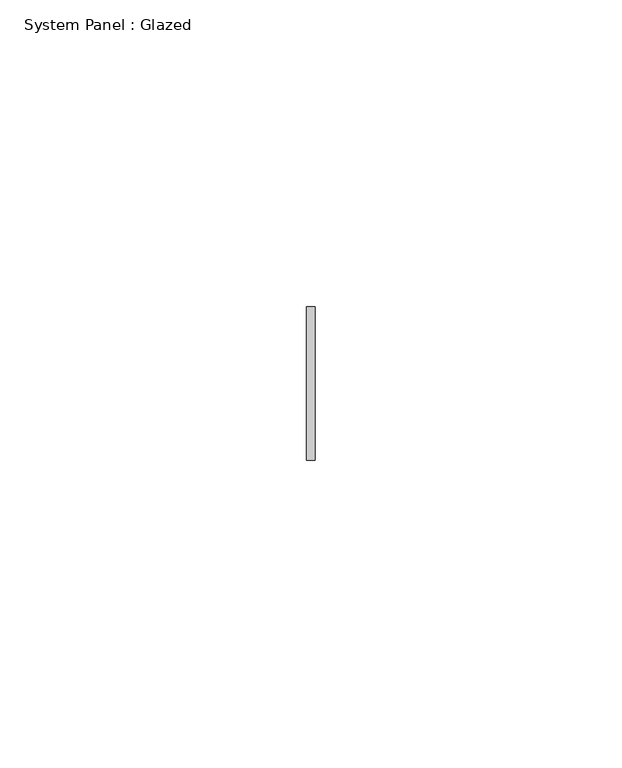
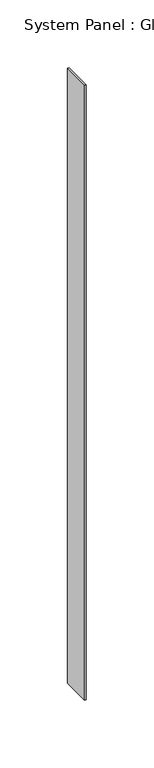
"""IFC4 building model written with IfcOpenShell, lengths in millimetres: plate geometry, System Panel : Glazed."""

import ifcopenshell
import ifcopenshell.guid

model = None  # the IFC model being written
_history = None  # IfcOwnerHistory: only IFC2X3 demands one
_inside = {}  # id of a spatial element -> (the spatial element, [elements in it])
_under = {}  # id of a project, library or spatial element -> (it, [spatial elements below it])
_declared = {}  # id of a project -> (the project, [libraries it declares])
_typed = {}  # id of a type object -> (the type object, [elements of that type])
_made_of = {}  # id of a material, layer set ... -> (it, [elements and type objects made of it])


def new_model(schema):
    """Start an empty IFC model of exactly this schema.

    Asked for "IFC4X3", IfcOpenShell would pick the latest addendum, in which some entities
    have other attributes; the version numbers below select the first issue.
    IFC2X3 requires an IfcOwnerHistory on every rooted entity: one is made here for all.
    """
    global model, _history
    if schema == "IFC4X3":
        model = ifcopenshell.file(schema_version=(4, 3, 0, 0))
    else:
        model = ifcopenshell.file(schema=schema)
    _inside.clear()
    _under.clear()
    _declared.clear()
    _typed.clear()
    _made_of.clear()
    _history = None
    if model.schema == "IFC2X3":
        org = make("IfcOrganization", Name="unknown")
        user = make(
            "IfcPersonAndOrganization",
            ThePerson=make("IfcPerson", FamilyName="unknown"),
            TheOrganization=org,
        )
        app = make(
            "IfcApplication",
            ApplicationDeveloper=org,
            Version="unknown",
            ApplicationFullName="unknown",
            ApplicationIdentifier="unknown",
        )
        _history = make(
            "IfcOwnerHistory",
            OwningUser=user,
            OwningApplication=app,
            ChangeAction="ADDED",
            CreationDate=0,
        )
    return model


def make(cls, **values):
    """One entity of the class cls with the attributes given. An attribute that is None is left unset."""
    return model.create_entity(
        cls, **{name: value for name, value in values.items() if value is not None}
    )


def rooted(cls, **values):
    """An entity with a GlobalId (a new one), such as an element, a storey or a relation."""
    return make(cls, GlobalId=ifcopenshell.guid.new(), OwnerHistory=_history, **values)


def si_unit(unit_type, name, prefix=None):
    """IfcSIUnit, for example si_unit("LENGTHUNIT", "METRE", prefix="MILLI")."""
    return make("IfcSIUnit", UnitType=unit_type, Prefix=prefix, Name=name)


def assignment(units):
    """IfcUnitAssignment: the units of a project."""
    return None if units is None else make("IfcUnitAssignment", Units=units)


def point(xyz):
    """IfcCartesianPoint."""
    return None if xyz is None else make("IfcCartesianPoint", Coordinates=xyz)


def direction(xyz):
    """IfcDirection."""
    return None if xyz is None else make("IfcDirection", DirectionRatios=xyz)


def frame(location, z_axis=None, x_axis=None):
    """IfcAxis2Placement3D, a coordinate frame: its origin and axes. An axis left out is left unset."""
    return make(
        "IfcAxis2Placement3D",
        Location=point(location),
        Axis=direction(z_axis),
        RefDirection=direction(x_axis),
    )


def origin():
    """The frame at (0, 0, 0) with its axes left unset."""
    return frame((0.0, 0.0, 0.0))


def origin_with_axes():
    """The frame at (0, 0, 0) with the z axis (0, 0, 1) and the x axis (1, 0, 0) written out."""
    return frame((0.0, 0.0, 0.0), z_axis=(0.0, 0.0, 1.0), x_axis=(1.0, 0.0, 0.0))


def place(relative_to, where):
    """IfcLocalPlacement: puts the frame where relative to a parent placement (None: the world)."""
    return make(
        "IfcLocalPlacement", PlacementRelTo=relative_to, RelativePlacement=where
    )


def context(
    kind, dimensions, precision=None, world=None, true_north=None, identifier=None
):
    """IfcGeometricRepresentationContext, for example the 3D "Model" context."""
    return make(
        "IfcGeometricRepresentationContext",
        ContextIdentifier=identifier,
        ContextType=kind,
        CoordinateSpaceDimension=dimensions,
        Precision=precision,
        WorldCoordinateSystem=world,
        TrueNorth=true_north,
    )


def project(units=None, contexts=None):
    """IfcProject with its units and contexts."""
    return rooted(
        "IfcProject",
        Name="project",
        RepresentationContexts=contexts,
        UnitsInContext=assignment(units),
    )


def spatial(cls, under=None, at=None, **own):
    """A site, building, storey or space (cls), placed at a placement, below another one or the project."""
    s = rooted(cls, ObjectPlacement=at, **own)
    if under is not None:
        _under.setdefault(under.id(), (under, []))[1].append(s)
    return s


def polyline(points):
    """IfcPolyline through the points."""
    return make("IfcPolyline", Points=[point(p) for p in points])


def outline(outer, holes=None, kind="AREA"):
    """IfcArbitraryClosedProfileDef: a profile drawn as a closed curve; with holes, ...WithVoids."""
    if holes is None:
        return make("IfcArbitraryClosedProfileDef", ProfileType=kind, OuterCurve=outer)
    return make(
        "IfcArbitraryProfileDefWithVoids",
        ProfileType=kind,
        OuterCurve=outer,
        InnerCurves=holes,
    )


def extrude(swept, where, along, depth):
    """IfcExtrudedAreaSolid: the profile swept, set in the frame where, extruded along a direction by depth."""
    return make(
        "IfcExtrudedAreaSolid",
        SweptArea=swept,
        Position=where,
        ExtrudedDirection=direction(along),
        Depth=depth,
    )


def shape(context_of_items, identifier, shape_type, items):
    """IfcShapeRepresentation: the items that make up one representation, for example the "Body"."""
    return make(
        "IfcShapeRepresentation",
        ContextOfItems=context_of_items,
        RepresentationIdentifier=identifier,
        RepresentationType=shape_type,
        Items=items,
    )


def source(mapping_origin, context_of_items, identifier, shape_type, items):
    """IfcRepresentationMap: a shape defined once, which mapped items show again and again."""
    return make(
        "IfcRepresentationMap",
        MappingOrigin=mapping_origin,
        MappedRepresentation=shape(context_of_items, identifier, shape_type, items),
    )


def transform(
    local_origin,
    x_axis=None,
    y_axis=None,
    z_axis=None,
    scale=None,
    scale2=None,
    scale3=None,
    uniform=True,
):
    """IfcCartesianTransformationOperator3D, or its non-uniform kind. x_axis, y_axis, z_axis: its Axis1, 2, 3."""
    if uniform:
        return make(
            "IfcCartesianTransformationOperator3D",
            Axis1=direction(x_axis),
            Axis2=direction(y_axis),
            LocalOrigin=point(local_origin),
            Scale=scale,
            Axis3=direction(z_axis),
        )
    return make(
        "IfcCartesianTransformationOperator3DnonUniform",
        Axis1=direction(x_axis),
        Axis2=direction(y_axis),
        LocalOrigin=point(local_origin),
        Scale=scale,
        Axis3=direction(z_axis),
        Scale2=scale2,
        Scale3=scale3,
    )


def mapped(mapping_source, mapping_target):
    """IfcMappedItem: shows the shape of a source again, moved by a transform."""
    return make(
        "IfcMappedItem", MappingSource=mapping_source, MappingTarget=mapping_target
    )


def made_of(thing, what):
    """Note that an element or type object is made of a material, layer set ...; save() writes the relation."""
    if what is not None:
        _made_of.setdefault(what.id(), (what, []))[1].append(thing)
    return thing


def element(
    cls,
    number,
    at=None,
    inside=None,
    cuts=None,
    type_object=None,
    material=None,
    context=None,
    identifier="Body",
    shape_type=None,
    held_by="IfcProductDefinitionShape",
    body=None,
    shapes=None,
    **own,
):
    """One element of the class cls, such as IfcWall. Its Tag is "e" and its number.

    at: its placement. inside: the storey or other place that contains it. cuts: it is an
    opening in that element (IfcRelVoidsElement). A single representation is given by context,
    identifier, shape_type and body (its items); several are given by shapes. held_by: the class
    of the entity that holds the representations. save() writes the other relations.
    """
    e = rooted(cls, Tag="e%d" % number, ObjectPlacement=at, **own)
    if body is not None:
        shapes = [shape(context, identifier, shape_type, body)]
    if shapes is not None:
        e.Representation = make(held_by, Representations=shapes)
    if inside is not None:
        _inside.setdefault(inside.id(), (inside, []))[1].append(e)
    if cuts is not None:
        rooted(
            "IfcRelVoidsElement", RelatingBuildingElement=cuts, RelatedOpeningElement=e
        )
    if type_object is not None:
        _typed.setdefault(type_object.id(), (type_object, []))[1].append(e)
    return made_of(e, material)


def aggregate(whole, parts):
    """IfcRelAggregates: a whole, such as a stair, and the parts it consists of."""
    return rooted("IfcRelAggregates", RelatingObject=whole, RelatedObjects=parts)


def save(model, path):
    """Write the relations noted so far, then the file.

    IfcRelAggregates (storeys below a building ...), IfcRelContainedInSpatialStructure (elements
    in a storey), IfcRelDefinesByType, IfcRelAssociatesMaterial and IfcRelDeclares: one each for
    every whole, place, type object, material and project.
    """
    for whole, parts in _under.values():
        aggregate(whole, parts)
    for where, things in _inside.values():
        rooted(
            "IfcRelContainedInSpatialStructure",
            RelatedElements=things,
            RelatingStructure=where,
        )
    for kind, things in _typed.values():
        rooted("IfcRelDefinesByType", RelatedObjects=things, RelatingType=kind)
    for what, things in _made_of.values():
        rooted("IfcRelAssociatesMaterial", RelatedObjects=things, RelatingMaterial=what)
    for by, libraries in _declared.values():
        rooted("IfcRelDeclares", RelatingContext=by, RelatedDefinitions=libraries)
    model.write(path)


def system_panel_glazed_7e76eec9(model_context):
    return source(origin(), model_context, "Body", "SweptSolid", [
        extrude(outline(polyline([(0.6581169, -12.5), (-0.6581169, -12.5), (-0.6581169, 12.5), (0.6581169, 12.5), (0.6581169, -12.5)])), origin_with_axes(), (0.0, 0.0, 1.0), 553.2555545),
    ])


if __name__ == "__main__":
    model = new_model("IFC4")
    model_context = context("Model", 3, world=origin())
    ifc_project = project(units=[si_unit("LENGTHUNIT", "METRE", prefix="MILLI")], contexts=[model_context])
    site = spatial("IfcSite", under=ifc_project)
    building = spatial("IfcBuilding", under=site)
    placement = place(None, origin())
    system_panel_glazed_shape = system_panel_glazed_7e76eec9(model_context)
    element("IfcPlate", 1, ObjectType="System Panel : Glazed", at=placement, inside=building, context=model_context, shape_type="MappedRepresentation", body=[
        mapped(system_panel_glazed_shape, transform((0.0, 0.0, 0.0), x_axis=(1.0, 0.0, 0.0), y_axis=(0.0, 1.0, 0.0), z_axis=(0.0, 0.0, 1.0))),
    ])
    save(model, "model.ifc")
